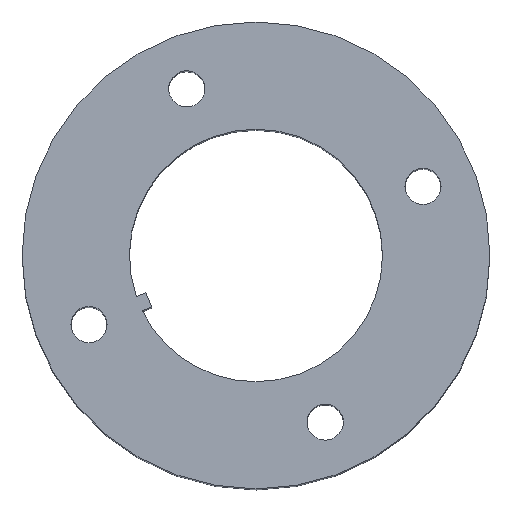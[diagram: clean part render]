
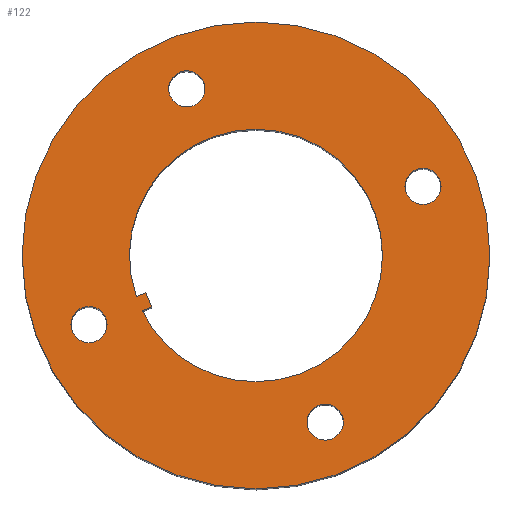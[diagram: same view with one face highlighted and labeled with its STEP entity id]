
A CAD part, left-side view. The second image highlights one B-rep face of the part: STEP entity #122.
In plain terms, the highlighted planar face has unit normal (-0.998, 0, 0.067).
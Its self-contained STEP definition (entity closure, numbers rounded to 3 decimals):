
#2 = VERTEX_POINT ( 'NONE', #255 ) ;
#3 = DIRECTION ( 'NONE',  ( -0.998, 0., 0.067 ) ) ;
#6 = ORIENTED_EDGE ( 'NONE', *, *, #81, .T. ) ;
#9 = CARTESIAN_POINT ( 'NONE',  ( -93.937, 56.23, 192.11 ) ) ;
#16 = VERTEX_POINT ( 'NONE', #447 ) ;
#19 = EDGE_CURVE ( 'NONE', #383, #515, #91, .T. ) ;
#20 = CARTESIAN_POINT ( 'NONE',  ( -95.59, 65.693, 167.547 ) ) ;
#24 = ORIENTED_EDGE ( 'NONE', *, *, #19, .T. ) ;
#40 = EDGE_CURVE ( 'NONE', #259, #426, #341, .T. ) ;
#41 = CARTESIAN_POINT ( 'NONE',  ( -94.505, 72.395, 183.676 ) ) ;
#43 = DIRECTION ( 'NONE',  ( -0.067, 0., -0.998 ) ) ;
#48 = DIRECTION ( 'NONE',  ( 0.998, 0., -0.067 ) ) ;
#49 = EDGE_LOOP ( 'NONE', ( #182, #355 ) ) ;
#50 = EDGE_CURVE ( 'NONE', #297, #523, #605, .T. ) ;
#68 = CIRCLE ( 'NONE', #138, 12.25 ) ;
#71 = CARTESIAN_POINT ( 'NONE',  ( -95.707, 65.693, 165.801 ) ) ;
#72 = ORIENTED_EDGE ( 'NONE', *, *, #337, .T. ) ;
#76 = CIRCLE ( 'NONE', #238, 1.75 ) ;
#77 = CARTESIAN_POINT ( 'NONE',  ( -94.505, 72.395, 183.676 ) ) ;
#81 = EDGE_CURVE ( 'NONE', #305, #251, #335, .T. ) ;
#91 = CIRCLE ( 'NONE', #503, 12.25 ) ;
#92 = CIRCLE ( 'NONE', #216, 1.75 ) ;
#95 = CARTESIAN_POINT ( 'NONE',  ( -95.072, 88.561, 175.242 ) ) ;
#101 = DIRECTION ( 'NONE',  ( -0.067, 0., -0.998 ) ) ;
#110 = EDGE_CURVE ( 'NONE', #426, #259, #92, .T. ) ;
#114 = DIRECTION ( 'NONE',  ( -0.067, 0., -0.998 ) ) ;
#120 = VECTOR ( 'NONE', #492, 1000. ) ;
#122 = ADVANCED_FACE ( 'NONE', ( #559, #473, #269, #306, #235, #633 ), #161, .T. ) ;
#123 = CARTESIAN_POINT ( 'NONE',  ( -94.747, 83.075, 180.068 ) ) ;
#128 = ORIENTED_EDGE ( 'NONE', *, *, #40, .T. ) ;
#138 = AXIS2_PLACEMENT_3D ( 'NONE', #567, #139, #615 ) ;
#139 = DIRECTION ( 'NONE',  ( 0.998, 0., -0.067 ) ) ;
#141 = ORIENTED_EDGE ( 'NONE', *, *, #110, .T. ) ;
#144 = EDGE_CURVE ( 'NONE', #523, #297, #76, .T. ) ;
#146 = CARTESIAN_POINT ( 'NONE',  ( -94.866, 83.403, 178.312 ) ) ;
#147 = ORIENTED_EDGE ( 'NONE', *, *, #144, .T. ) ;
#157 = DIRECTION ( 'NONE',  ( -0.067, 0., -0.998 ) ) ;
#161 = PLANE ( 'NONE',  #273 ) ;
#167 = ORIENTED_EDGE ( 'NONE', *, *, #50, .T. ) ;
#169 = EDGE_CURVE ( 'NONE', #497, #2, #586, .T. ) ;
#177 = AXIS2_PLACEMENT_3D ( 'NONE', #301, #346, #611 ) ;
#181 = DIRECTION ( 'NONE',  ( -0.067, 0., -0.998 ) ) ;
#182 = ORIENTED_EDGE ( 'NONE', *, *, #609, .T. ) ;
#189 = CARTESIAN_POINT ( 'NONE',  ( -93.419, 79.098, 199.805 ) ) ;
#202 = CARTESIAN_POINT ( 'NONE',  ( -95.59, 65.693, 167.547 ) ) ;
#204 = DIRECTION ( 'NONE',  ( 0.998, 0., -0.067 ) ) ;
#209 = AXIS2_PLACEMENT_3D ( 'NONE', #41, #456, #43 ) ;
#213 = VERTEX_POINT ( 'NONE', #221 ) ;
#214 = CARTESIAN_POINT ( 'NONE',  ( -94.84, 82.5, 178.685 ) ) ;
#216 = AXIS2_PLACEMENT_3D ( 'NONE', #369, #423, #510 ) ;
#221 = CARTESIAN_POINT ( 'NONE',  ( -94.837, 88.561, 178.734 ) ) ;
#226 = ORIENTED_EDGE ( 'NONE', *, *, #299, .T. ) ;
#235 = FACE_BOUND ( 'NONE', #49, .T. ) ;
#238 = AXIS2_PLACEMENT_3D ( 'NONE', #20, #428, #114 ) ;
#240 = CARTESIAN_POINT ( 'NONE',  ( -93.682, 72.395, 195.898 ) ) ;
#244 = DIRECTION ( 'NONE',  ( -0.067, 0., -0.998 ) ) ;
#245 = ORIENTED_EDGE ( 'NONE', *, *, #600, .T. ) ;
#248 = VERTEX_POINT ( 'NONE', #278 ) ;
#251 = VERTEX_POINT ( 'NONE', #638 ) ;
#255 = CARTESIAN_POINT ( 'NONE',  ( -94.747, 83.075, 180.068 ) ) ;
#256 = ORIENTED_EDGE ( 'NONE', *, *, #443, .T. ) ;
#259 = VERTEX_POINT ( 'NONE', #9 ) ;
#260 = LINE ( 'NONE', #446, #120 ) ;
#262 = DIRECTION ( 'NONE',  ( 0.998, 0., -0.067 ) ) ;
#268 = EDGE_LOOP ( 'NONE', ( #141, #128 ) ) ;
#269 = FACE_BOUND ( 'NONE', #373, .T. ) ;
#273 = AXIS2_PLACEMENT_3D ( 'NONE', #521, #3, #617 ) ;
#277 = CIRCLE ( 'NONE', #499, 1.75 ) ;
#278 = CARTESIAN_POINT ( 'NONE',  ( -92.984, 72.395, 206.275 ) ) ;
#295 = EDGE_CURVE ( 'NONE', #440, #248, #441, .T. ) ;
#296 = CARTESIAN_POINT ( 'NONE',  ( -94.505, 72.395, 183.676 ) ) ;
#297 = VERTEX_POINT ( 'NONE', #71 ) ;
#299 = EDGE_CURVE ( 'NONE', #2, #383, #300, .T. ) ;
#300 = LINE ( 'NONE', #123, #656 ) ;
#301 = CARTESIAN_POINT ( 'NONE',  ( -94.955, 88.561, 176.988 ) ) ;
#305 = VERTEX_POINT ( 'NONE', #482 ) ;
#306 = FACE_OUTER_BOUND ( 'NONE', #358, .T. ) ;
#312 = CARTESIAN_POINT ( 'NONE',  ( -93.419, 79.098, 199.805 ) ) ;
#324 = DIRECTION ( 'NONE',  ( 0.062, 0.383, 0.922 ) ) ;
#328 = DIRECTION ( 'NONE',  ( -0.026, 0.924, -0.382 ) ) ;
#335 = CIRCLE ( 'NONE', #542, 1.75 ) ;
#337 = EDGE_CURVE ( 'NONE', #248, #440, #516, .T. ) ;
#338 = DIRECTION ( 'NONE',  ( -0.998, 0., 0.067 ) ) ;
#340 = CARTESIAN_POINT ( 'NONE',  ( -96.025, 72.395, 161.077 ) ) ;
#341 = CIRCLE ( 'NONE', #397, 1.75 ) ;
#343 = DIRECTION ( 'NONE',  ( 0.998, 0., -0.067 ) ) ;
#346 = DIRECTION ( 'NONE',  ( 0.998, 0., -0.067 ) ) ;
#354 = CARTESIAN_POINT ( 'NONE',  ( -95.473, 65.693, 169.293 ) ) ;
#355 = ORIENTED_EDGE ( 'NONE', *, *, #401, .T. ) ;
#357 = CARTESIAN_POINT ( 'NONE',  ( -94.505, 72.395, 183.676 ) ) ;
#358 = EDGE_LOOP ( 'NONE', ( #534, #72 ) ) ;
#359 = EDGE_LOOP ( 'NONE', ( #167, #147 ) ) ;
#363 = DIRECTION ( 'NONE',  ( -0.067, 0., -0.998 ) ) ;
#365 = CARTESIAN_POINT ( 'NONE',  ( -94.055, 56.23, 190.364 ) ) ;
#369 = CARTESIAN_POINT ( 'NONE',  ( -94.055, 56.23, 190.364 ) ) ;
#373 = EDGE_LOOP ( 'NONE', ( #412, #494, #226, #24, #662, #245 ) ) ;
#383 = VERTEX_POINT ( 'NONE', #603 ) ;
#384 = AXIS2_PLACEMENT_3D ( 'NONE', #189, #496, #181 ) ;
#389 = EDGE_CURVE ( 'NONE', #570, #497, #260, .T. ) ;
#391 = CARTESIAN_POINT ( 'NONE',  ( -94.955, 88.561, 176.988 ) ) ;
#397 = AXIS2_PLACEMENT_3D ( 'NONE', #365, #204, #623 ) ;
#401 = EDGE_CURVE ( 'NONE', #213, #598, #277, .T. ) ;
#412 = ORIENTED_EDGE ( 'NONE', *, *, #389, .T. ) ;
#415 = DIRECTION ( 'NONE',  ( 0.998, 0., -0.067 ) ) ;
#418 = CIRCLE ( 'NONE', #209, 12.25 ) ;
#423 = DIRECTION ( 'NONE',  ( 0.998, 0., -0.067 ) ) ;
#426 = VERTEX_POINT ( 'NONE', #660 ) ;
#428 = DIRECTION ( 'NONE',  ( 0.998, 0., -0.067 ) ) ;
#436 = AXIS2_PLACEMENT_3D ( 'NONE', #202, #262, #157 ) ;
#440 = VERTEX_POINT ( 'NONE', #340 ) ;
#441 = CIRCLE ( 'NONE', #577, 22.65 ) ;
#443 = EDGE_CURVE ( 'NONE', #251, #305, #676, .T. ) ;
#446 = CARTESIAN_POINT ( 'NONE',  ( -94.866, 83.403, 178.312 ) ) ;
#447 = CARTESIAN_POINT ( 'NONE',  ( -95.327, 72.395, 171.453 ) ) ;
#456 = DIRECTION ( 'NONE',  ( 0.998, 0., -0.067 ) ) ;
#473 = FACE_BOUND ( 'NONE', #632, .T. ) ;
#482 = CARTESIAN_POINT ( 'NONE',  ( -93.302, 79.098, 201.551 ) ) ;
#490 = VECTOR ( 'NONE', #324, 1000. ) ;
#492 = DIRECTION ( 'NONE',  ( 0.026, -0.924, 0.382 ) ) ;
#494 = ORIENTED_EDGE ( 'NONE', *, *, #169, .T. ) ;
#496 = DIRECTION ( 'NONE',  ( 0.998, 0., -0.067 ) ) ;
#497 = VERTEX_POINT ( 'NONE', #661 ) ;
#499 = AXIS2_PLACEMENT_3D ( 'NONE', #391, #343, #650 ) ;
#503 = AXIS2_PLACEMENT_3D ( 'NONE', #357, #48, #363 ) ;
#510 = DIRECTION ( 'NONE',  ( -0.067, 0., -0.998 ) ) ;
#512 = EDGE_CURVE ( 'NONE', #515, #16, #418, .T. ) ;
#515 = VERTEX_POINT ( 'NONE', #240 ) ;
#516 = CIRCLE ( 'NONE', #606, 22.65 ) ;
#521 = CARTESIAN_POINT ( 'NONE',  ( -94.505, 72.395, 183.676 ) ) ;
#523 = VERTEX_POINT ( 'NONE', #354 ) ;
#534 = ORIENTED_EDGE ( 'NONE', *, *, #295, .T. ) ;
#542 = AXIS2_PLACEMENT_3D ( 'NONE', #312, #415, #101 ) ;
#543 = CIRCLE ( 'NONE', #177, 1.75 ) ;
#559 = FACE_BOUND ( 'NONE', #359, .T. ) ;
#567 = CARTESIAN_POINT ( 'NONE',  ( -94.505, 72.395, 183.676 ) ) ;
#570 = VERTEX_POINT ( 'NONE', #146 ) ;
#577 = AXIS2_PLACEMENT_3D ( 'NONE', #77, #597, #595 ) ;
#586 = LINE ( 'NONE', #214, #490 ) ;
#595 = DIRECTION ( 'NONE',  ( -0.067, 0., -0.998 ) ) ;
#597 = DIRECTION ( 'NONE',  ( -0.998, 0., 0.067 ) ) ;
#598 = VERTEX_POINT ( 'NONE', #95 ) ;
#600 = EDGE_CURVE ( 'NONE', #16, #570, #68, .T. ) ;
#603 = CARTESIAN_POINT ( 'NONE',  ( -94.773, 83.977, 179.694 ) ) ;
#605 = CIRCLE ( 'NONE', #436, 1.75 ) ;
#606 = AXIS2_PLACEMENT_3D ( 'NONE', #296, #338, #244 ) ;
#609 = EDGE_CURVE ( 'NONE', #598, #213, #543, .T. ) ;
#611 = DIRECTION ( 'NONE',  ( -0.067, 0., -0.998 ) ) ;
#615 = DIRECTION ( 'NONE',  ( -0.067, 0., -0.998 ) ) ;
#617 = DIRECTION ( 'NONE',  ( 0.067, 0., 0.998 ) ) ;
#623 = DIRECTION ( 'NONE',  ( -0.067, 0., -0.998 ) ) ;
#632 = EDGE_LOOP ( 'NONE', ( #256, #6 ) ) ;
#633 = FACE_BOUND ( 'NONE', #268, .T. ) ;
#638 = CARTESIAN_POINT ( 'NONE',  ( -93.537, 79.098, 198.059 ) ) ;
#650 = DIRECTION ( 'NONE',  ( -0.067, 0., -0.998 ) ) ;
#656 = VECTOR ( 'NONE', #328, 1000. ) ;
#660 = CARTESIAN_POINT ( 'NONE',  ( -94.172, 56.23, 188.617 ) ) ;
#661 = CARTESIAN_POINT ( 'NONE',  ( -94.84, 82.5, 178.685 ) ) ;
#662 = ORIENTED_EDGE ( 'NONE', *, *, #512, .T. ) ;
#676 = CIRCLE ( 'NONE', #384, 1.75 ) ;
